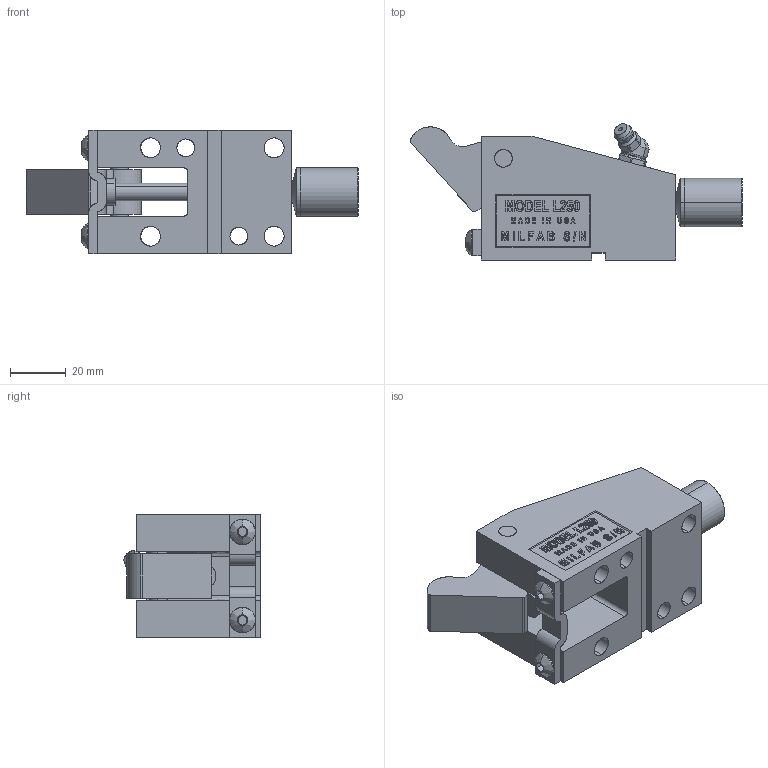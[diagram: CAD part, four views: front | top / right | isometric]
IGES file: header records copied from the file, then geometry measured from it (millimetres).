
Start section: SolidWorks IGES file using analytic representation for surfaces
Global section: file name: Y:\JIM'S INCH CAM UNITS\L25045\OPEN\L25045-O.IGS; native system: SolidWorks 2006 by SolidWorks Corporation; preprocessor: SolidWorks 2006 by SolidWorks Corporation; author: Jim; date: 090204.140113; units: inch
Bounding box: 119.25 x 48.96 x 44.45 mm (x, y, z)
Surface area: 34981 mm2 (no closed solid volume)
Topology: 0 solids, 0 shells, 578 faces, 7267 edges, 7265 vertices
Faces by surface type: bspline 446, revolution 132
